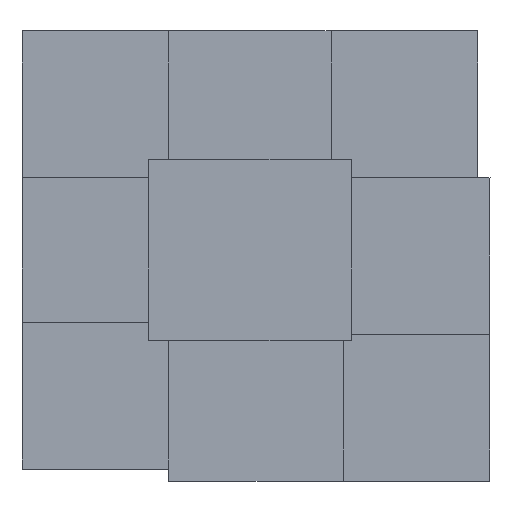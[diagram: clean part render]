
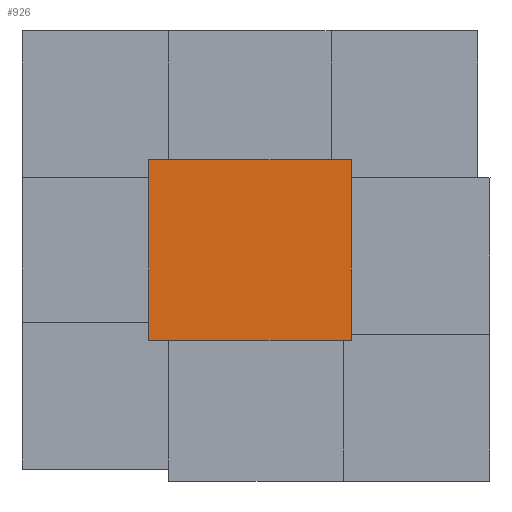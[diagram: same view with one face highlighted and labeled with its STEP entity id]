
A CAD part, left-side view. The second image highlights one B-rep face of the part: STEP entity #926.
In plain terms, the highlighted planar face has unit normal (-1, 0, 0).
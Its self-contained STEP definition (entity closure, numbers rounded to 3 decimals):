
#808=CARTESIAN_POINT('Line Origine',(0.,0.,61.5)) ;
#812=CARTESIAN_POINT('Vertex',(0.,0.,0.)) ;
#814=CARTESIAN_POINT('Vertex',(0.,0.,123.)) ;
#883=CARTESIAN_POINT('Vertex',(0.,138.,0.)) ;
#886=CARTESIAN_POINT('Line Origine',(0.,138.,61.5)) ;
#890=CARTESIAN_POINT('Vertex',(0.,138.,123.)) ;
#905=CARTESIAN_POINT('Axis2P3D Location',(0.,138.,0.)) ;
#910=CARTESIAN_POINT('Line Origine',(0.,69.,0.)) ;
#915=CARTESIAN_POINT('Line Origine',(0.,69.,123.)) ;
#809=DIRECTION('Vector Direction',(0.,0.,1.)) ;
#887=DIRECTION('Vector Direction',(0.,0.,1.)) ;
#906=DIRECTION('Axis2P3D Direction',(-1.,0.,0.)) ;
#907=DIRECTION('Axis2P3D XDirection',(0.,-1.,0.)) ;
#911=DIRECTION('Vector Direction',(0.,-1.,0.)) ;
#916=DIRECTION('Vector Direction',(0.,-1.,0.)) ;
#908=AXIS2_PLACEMENT_3D('Plane Axis2P3D',#905,#906,#907) ;
#921=ORIENTED_EDGE('',*,*,#892,.F.) ;
#922=ORIENTED_EDGE('',*,*,#914,.T.) ;
#923=ORIENTED_EDGE('',*,*,#816,.T.) ;
#924=ORIENTED_EDGE('',*,*,#919,.F.) ;
#810=VECTOR('Line Direction',#809,1.) ;
#888=VECTOR('Line Direction',#887,1.) ;
#912=VECTOR('Line Direction',#911,1.) ;
#917=VECTOR('Line Direction',#916,1.) ;
#926=ADVANCED_FACE('Body.2-molde-superior',(#925),#909,.T.) ;
#816=EDGE_CURVE('',#813,#815,#811,.T.) ;
#892=EDGE_CURVE('',#884,#891,#889,.T.) ;
#914=EDGE_CURVE('',#884,#813,#913,.T.) ;
#919=EDGE_CURVE('',#891,#815,#918,.T.) ;
#920=EDGE_LOOP('',(#921,#922,#923,#924)) ;
#925=FACE_OUTER_BOUND('',#920,.T.) ;
#811=LINE('Line',#808,#810) ;
#889=LINE('Line',#886,#888) ;
#913=LINE('Line',#910,#912) ;
#918=LINE('Line',#915,#917) ;
#909=PLANE('',#908) ;
#813=VERTEX_POINT('',#812) ;
#815=VERTEX_POINT('',#814) ;
#884=VERTEX_POINT('',#883) ;
#891=VERTEX_POINT('',#890) ;
